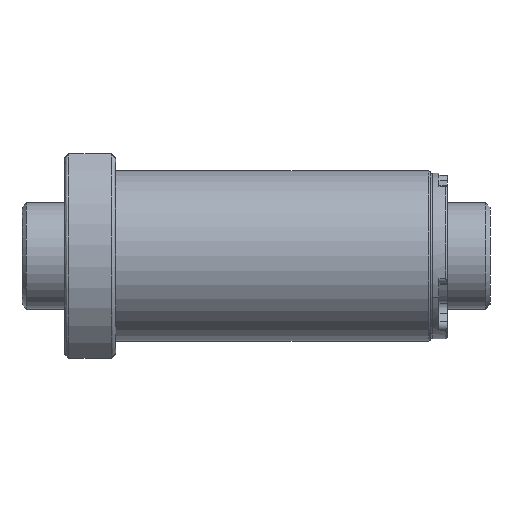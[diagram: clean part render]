
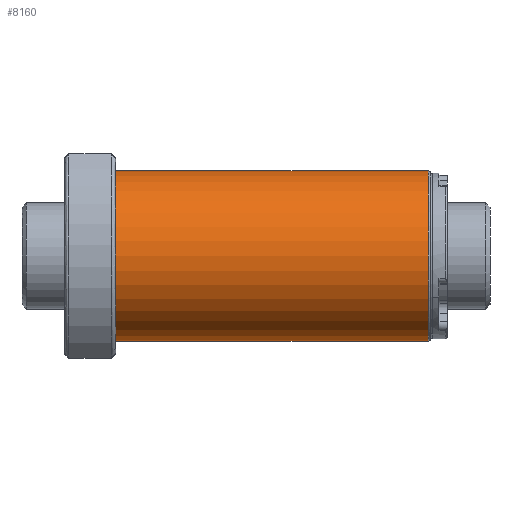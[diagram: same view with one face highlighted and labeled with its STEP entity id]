
A CAD part, front view. The second image highlights one B-rep face of the part: STEP entity #8160.
In plain terms, the highlighted cylindrical face has radius 20 mm (diameter 40 mm), a partial arc.
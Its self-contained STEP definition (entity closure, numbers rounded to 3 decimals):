
#23 = VECTOR ( 'NONE', #6185, 1000. ) ;
#26 = AXIS2_PLACEMENT_3D ( 'NONE', #5127, #5213, #2973 ) ;
#137 = LINE ( 'NONE', #350, #23 ) ;
#350 = CARTESIAN_POINT ( 'NONE',  ( 0., 0., 20. ) ) ;
#406 = DIRECTION ( 'NONE',  ( 0., 0., 1. ) ) ;
#717 = EDGE_CURVE ( 'NONE', #989, #891, #137, .T. ) ;
#891 = VERTEX_POINT ( 'NONE', #9019 ) ;
#989 = VERTEX_POINT ( 'NONE', #1045 ) ;
#1045 = CARTESIAN_POINT ( 'NONE',  ( 85.5, 0., 20. ) ) ;
#1201 = DIRECTION ( 'NONE',  ( 0., 0., 1. ) ) ;
#1278 = AXIS2_PLACEMENT_3D ( 'NONE', #1887, #4836, #1201 ) ;
#1589 = EDGE_CURVE ( 'NONE', #891, #5638, #4320, .T. ) ;
#1887 = CARTESIAN_POINT ( 'NONE',  ( 0., 0., 0. ) ) ;
#2207 = ORIENTED_EDGE ( 'NONE', *, *, #3654, .F. ) ;
#2973 = DIRECTION ( 'NONE',  ( 0., 0., 1. ) ) ;
#3342 = CARTESIAN_POINT ( 'NONE',  ( 12., 0., 0. ) ) ;
#3353 = ORIENTED_EDGE ( 'NONE', *, *, #7811, .T. ) ;
#3547 = DIRECTION ( 'NONE',  ( -1., 0., 0. ) ) ;
#3654 = EDGE_CURVE ( 'NONE', #4171, #5638, #7342, .T. ) ;
#3669 = ORIENTED_EDGE ( 'NONE', *, *, #1589, .T. ) ;
#3746 = ORIENTED_EDGE ( 'NONE', *, *, #717, .T. ) ;
#4099 = CIRCLE ( 'NONE', #26, 20. ) ;
#4171 = VERTEX_POINT ( 'NONE', #6444 ) ;
#4263 = EDGE_LOOP ( 'NONE', ( #2207, #3353, #3746, #3669 ) ) ;
#4320 = CIRCLE ( 'NONE', #5135, 20. ) ;
#4761 = DIRECTION ( 'NONE',  ( 1., 0., 0. ) ) ;
#4774 = CYLINDRICAL_SURFACE ( 'NONE', #1278, 20. ) ;
#4836 = DIRECTION ( 'NONE',  ( -1., 0., 0. ) ) ;
#5069 = VECTOR ( 'NONE', #3547, 1000. ) ;
#5127 = CARTESIAN_POINT ( 'NONE',  ( 85.5, 0., 0. ) ) ;
#5135 = AXIS2_PLACEMENT_3D ( 'NONE', #3342, #4761, #406 ) ;
#5213 = DIRECTION ( 'NONE',  ( -1., 0., 0. ) ) ;
#5638 = VERTEX_POINT ( 'NONE', #9409 ) ;
#5677 = FACE_OUTER_BOUND ( 'NONE', #4263, .T. ) ;
#6185 = DIRECTION ( 'NONE',  ( -1., 0., 0. ) ) ;
#6444 = CARTESIAN_POINT ( 'NONE',  ( 85.5, 0., -20. ) ) ;
#7342 = LINE ( 'NONE', #8692, #5069 ) ;
#7811 = EDGE_CURVE ( 'NONE', #4171, #989, #4099, .T. ) ;
#8160 = ADVANCED_FACE ( 'NONE', ( #5677 ), #4774, .T. ) ;
#8692 = CARTESIAN_POINT ( 'NONE',  ( 0., 0., -20. ) ) ;
#9019 = CARTESIAN_POINT ( 'NONE',  ( 12., 0., 20. ) ) ;
#9409 = CARTESIAN_POINT ( 'NONE',  ( 12., 0., -20. ) ) ;
